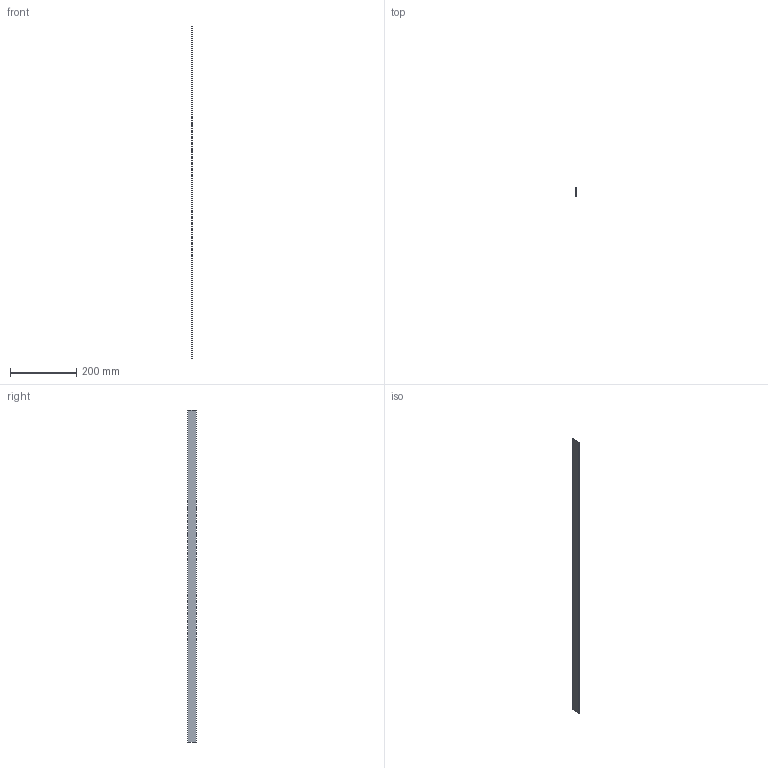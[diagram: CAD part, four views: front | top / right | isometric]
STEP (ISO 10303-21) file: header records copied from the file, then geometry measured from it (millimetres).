
FILE_DESCRIPTION (( 'STEP AP203' ), '1' );
FILE_NAME ('EBMG-180-3.STEP', '2013-07-16T01:08:27', ( 'SDS' ), ( 'SDS' ), 'SwSTEP 2.0', 'SolidWorks 2002296', '' );
FILE_SCHEMA (( 'CONFIG_CONTROL_DESIGN' ));
Length unit declared in the file: millimetre
Products named in the file (1): EBMG-180-3
Bounding box: 0.8 x 25.4 x 1000 mm (x, y, z)
Volume: 20320 mm3; surface area: 52440.6 mm2
Topology: 1 solids, 1 shells, 6 faces, 12 edges, 8 vertices
Faces by surface type: plane 6
Entity records: 233 total; most frequent: CARTESIAN_POINT 27, DIRECTION 26, ORIENTED_EDGE 24, EDGE_CURVE 12, LINE 12, VECTOR 12, VERTEX_POINT 8, PERSON_AND_ORGANIZATION 8
